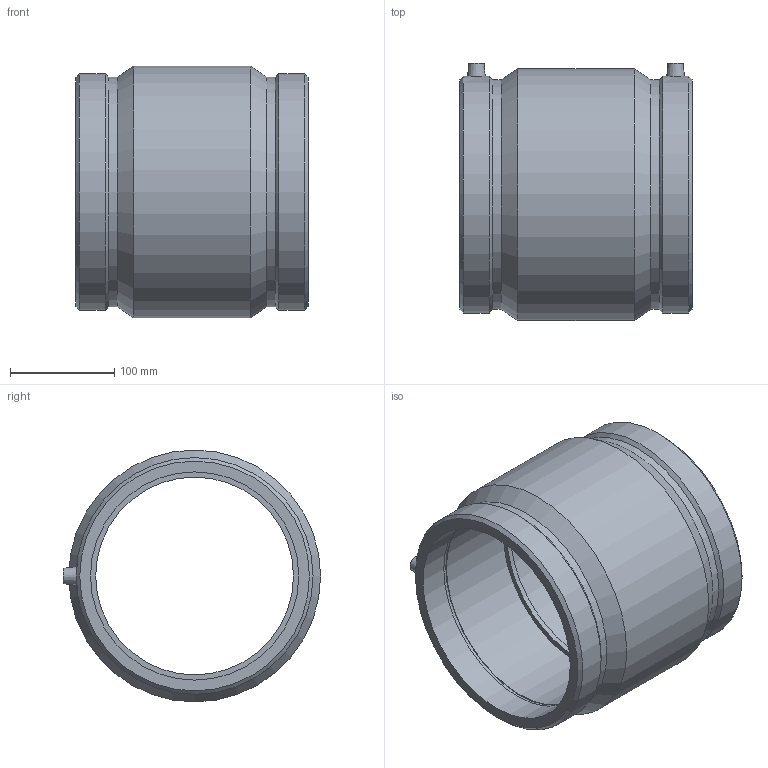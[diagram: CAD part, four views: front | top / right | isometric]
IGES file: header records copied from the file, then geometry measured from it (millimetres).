
Global section: file name: 490104200N.ipt; native system: Autodesk Inventor 2015; preprocessor: unknown; author: KIM; date: 20190124.130054; units: millimetre
Bounding box: 223 x 247 x 242 mm (x, y, z)
Volume: 2662693.2 mm3; surface area: 336081.1 mm2
Topology: 1 solids, 1 shells, 36 faces, 80 edges, 54 vertices
Faces by surface type: plane 12, revolution 9, cone 8, cylinder 7
Full cylindrical faces by diameter (mm): 4 x2, 220.656 x2, 227.48 x2, 242 x1
